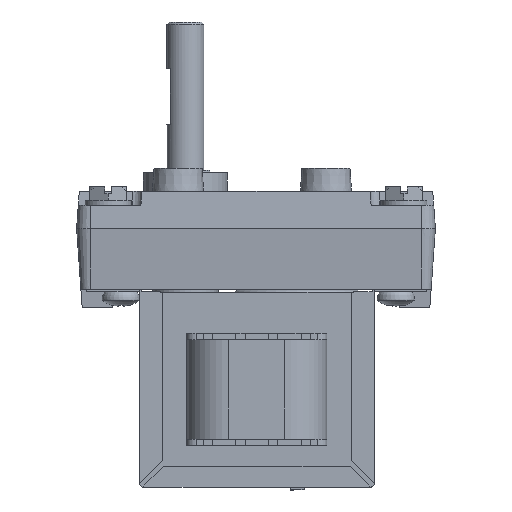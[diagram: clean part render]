
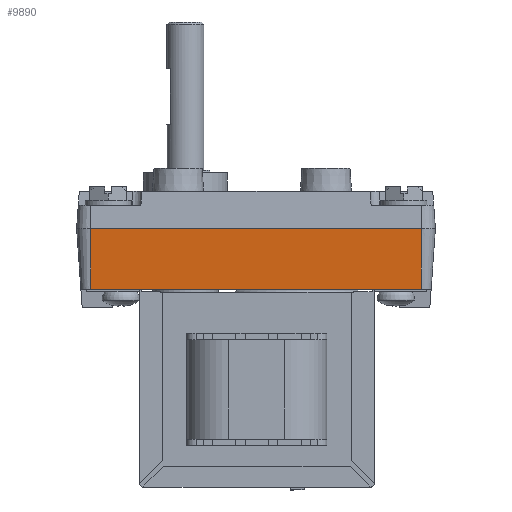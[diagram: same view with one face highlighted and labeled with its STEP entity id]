
A CAD part, left-side view. The second image highlights one B-rep face of the part: STEP entity #9890.
In plain terms, the highlighted planar face has unit normal (-0.998, 0, -0.07).
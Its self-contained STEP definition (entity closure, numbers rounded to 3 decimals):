
#453 = VERTEX_POINT ( 'NONE', #9196 ) ;
#506 = CARTESIAN_POINT ( 'NONE',  ( 0.909, 74., -13. ) ) ;
#881 = CARTESIAN_POINT ( 'NONE',  ( 0., 3., 0. ) ) ;
#1269 = EDGE_CURVE ( 'NONE', #11974, #453, #1342, .T. ) ;
#1342 = LINE ( 'NONE', #12016, #18643 ) ;
#1952 = CARTESIAN_POINT ( 'NONE',  ( 0.909, 74., -13. ) ) ;
#3603 = VECTOR ( 'NONE', #15270, 1000. ) ;
#3923 = VERTEX_POINT ( 'NONE', #13153 ) ;
#4091 = ORIENTED_EDGE ( 'NONE', *, *, #17515, .F. ) ;
#4154 = LINE ( 'NONE', #16043, #15901 ) ;
#5846 = DIRECTION ( 'NONE',  ( -0.998, 0., -0.07 ) ) ;
#6219 = DIRECTION ( 'NONE',  ( 0., -1., 0. ) ) ;
#7573 = DIRECTION ( 'NONE',  ( 0.07, 0., -0.998 ) ) ;
#7697 = FACE_OUTER_BOUND ( 'NONE', #19255, .T. ) ;
#8051 = VERTEX_POINT ( 'NONE', #506 ) ;
#8469 = LINE ( 'NONE', #15012, #21515 ) ;
#9196 = CARTESIAN_POINT ( 'NONE',  ( 0., 3., 0. ) ) ;
#9579 = AXIS2_PLACEMENT_3D ( 'NONE', #881, #5846, #7573 ) ;
#9890 = ADVANCED_FACE ( 'NONE', ( #7697 ), #17216, .T. ) ;
#11572 = EDGE_CURVE ( 'NONE', #3923, #453, #4154, .T. ) ;
#11974 = VERTEX_POINT ( 'NONE', #21000 ) ;
#12016 = CARTESIAN_POINT ( 'NONE',  ( 0., 3., 0. ) ) ;
#12973 = LINE ( 'NONE', #1952, #3603 ) ;
#13153 = CARTESIAN_POINT ( 'NONE',  ( 0., 74., 0. ) ) ;
#13779 = ORIENTED_EDGE ( 'NONE', *, *, #16267, .T. ) ;
#15012 = CARTESIAN_POINT ( 'NONE',  ( 0., 74., 0. ) ) ;
#15270 = DIRECTION ( 'NONE',  ( 0., -1., 0. ) ) ;
#15901 = VECTOR ( 'NONE', #6219, 1000. ) ;
#16043 = CARTESIAN_POINT ( 'NONE',  ( 0., 3., 0. ) ) ;
#16267 = EDGE_CURVE ( 'NONE', #8051, #11974, #12973, .T. ) ;
#17216 = PLANE ( 'NONE',  #9579 ) ;
#17381 = ORIENTED_EDGE ( 'NONE', *, *, #1269, .T. ) ;
#17515 = EDGE_CURVE ( 'NONE', #8051, #3923, #8469, .T. ) ;
#18521 = DIRECTION ( 'NONE',  ( -0.07, 0., 0.998 ) ) ;
#18572 = DIRECTION ( 'NONE',  ( -0.07, 0., 0.998 ) ) ;
#18643 = VECTOR ( 'NONE', #18572, 1000. ) ;
#19255 = EDGE_LOOP ( 'NONE', ( #19372, #4091, #13779, #17381 ) ) ;
#19372 = ORIENTED_EDGE ( 'NONE', *, *, #11572, .F. ) ;
#21000 = CARTESIAN_POINT ( 'NONE',  ( 0.909, 3., -13. ) ) ;
#21515 = VECTOR ( 'NONE', #18521, 1000. ) ;
